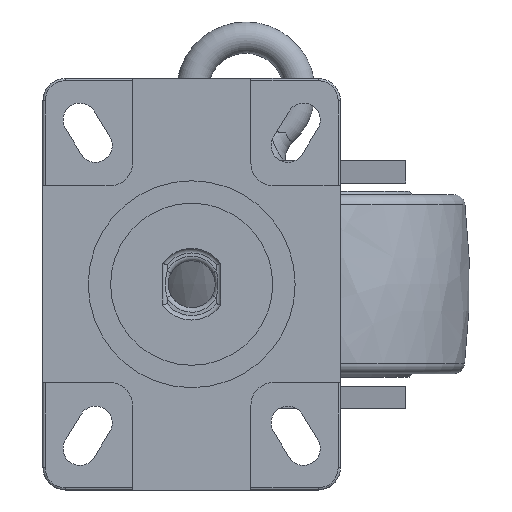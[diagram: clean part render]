
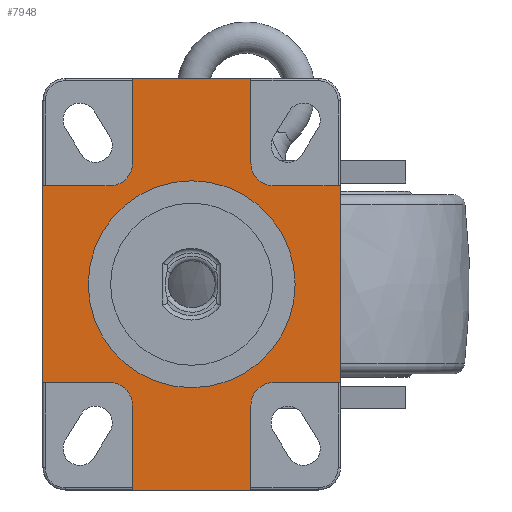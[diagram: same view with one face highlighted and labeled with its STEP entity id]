
A CAD part, front view. The second image highlights one B-rep face of the part: STEP entity #7948.
In plain terms, the highlighted planar face has unit normal (0, -1, 0) as drawn and (0, 1, 0) by its records, which use the part's own axes.
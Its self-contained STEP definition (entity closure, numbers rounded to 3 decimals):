
#6118=DIRECTION('',(0.,0.,1.));
#6119=VECTOR('',#6118,30.);
#6120=CARTESIAN_POINT('',(44.,-1.,-66.5));
#6121=LINE('',#6120,#6119);
#6122=CARTESIAN_POINT('',(54.,-1.,-36.5));
#6123=DIRECTION('',(0.,1.,0.));
#6124=DIRECTION('',(-1.,0.,0.));
#6125=AXIS2_PLACEMENT_3D('',#6122,#6123,#6124);
#6127=DIRECTION('',(1.,0.,0.));
#6128=VECTOR('',#6127,38.);
#6129=CARTESIAN_POINT('',(54.,-1.,-26.5));
#6130=LINE('',#6129,#6128);
#6131=DIRECTION('',(-1.,0.,0.));
#6132=VECTOR('',#6131,38.);
#6133=CARTESIAN_POINT('',(92.,-1.,26.5));
#6134=LINE('',#6133,#6132);
#6135=CARTESIAN_POINT('',(54.,-1.,36.5));
#6136=DIRECTION('',(0.,1.,0.));
#6137=DIRECTION('',(0.,0.,-1.));
#6138=AXIS2_PLACEMENT_3D('',#6135,#6136,#6137);
#6140=DIRECTION('',(0.,0.,1.));
#6141=VECTOR('',#6140,30.);
#6142=CARTESIAN_POINT('',(44.,-1.,36.5));
#6143=LINE('',#6142,#6141);
#6144=DIRECTION('',(0.,0.,-1.));
#6145=VECTOR('',#6144,30.);
#6146=CARTESIAN_POINT('',(-44.,-1.,66.5));
#6147=LINE('',#6146,#6145);
#6148=CARTESIAN_POINT('',(-54.,-1.,36.5));
#6149=DIRECTION('',(0.,1.,0.));
#6150=DIRECTION('',(1.,0.,0.));
#6151=AXIS2_PLACEMENT_3D('',#6148,#6149,#6150);
#6153=DIRECTION('',(-1.,0.,0.));
#6154=VECTOR('',#6153,38.);
#6155=CARTESIAN_POINT('',(-54.,-1.,26.5));
#6156=LINE('',#6155,#6154);
#6157=DIRECTION('',(1.,0.,0.));
#6158=VECTOR('',#6157,38.);
#6159=CARTESIAN_POINT('',(-92.,-1.,-26.5));
#6160=LINE('',#6159,#6158);
#6161=CARTESIAN_POINT('',(-54.,-1.,-36.5));
#6162=DIRECTION('',(0.,1.,0.));
#6163=DIRECTION('',(0.,0.,1.));
#6164=AXIS2_PLACEMENT_3D('',#6161,#6162,#6163);
#6166=DIRECTION('',(0.,0.,-1.));
#6167=VECTOR('',#6166,30.);
#6168=CARTESIAN_POINT('',(-44.,-1.,-36.5));
#6169=LINE('',#6168,#6167);
#6170=CARTESIAN_POINT('',(0.,-1.,0.));
#6171=DIRECTION('',(0.,1.,0.));
#6172=DIRECTION('',(1.,0.,0.));
#6173=AXIS2_PLACEMENT_3D('',#6170,#6171,#6172);
#6175=CARTESIAN_POINT('',(0.,-1.,0.));
#6176=DIRECTION('',(0.,1.,0.));
#6177=DIRECTION('',(-1.,0.,0.));
#6178=AXIS2_PLACEMENT_3D('',#6175,#6176,#6177);
#6180=DIRECTION('',(-1.,0.,0.));
#6181=VECTOR('',#6180,88.);
#6182=CARTESIAN_POINT('',(44.,-1.,-66.5));
#6183=LINE('',#6182,#6181);
#6498=DIRECTION('',(0.,0.,1.));
#6499=VECTOR('',#6498,53.);
#6500=CARTESIAN_POINT('',(-92.,-1.,-26.5));
#6501=LINE('',#6500,#6499);
#6582=DIRECTION('',(1.,0.,0.));
#6583=VECTOR('',#6582,88.);
#6584=CARTESIAN_POINT('',(-44.,-1.,66.5));
#6585=LINE('',#6584,#6583);
#6689=DIRECTION('',(0.,0.,-1.));
#6690=VECTOR('',#6689,53.);
#6691=CARTESIAN_POINT('',(92.,-1.,26.5));
#6692=LINE('',#6691,#6690);
#7161=CARTESIAN_POINT('',(44.,-1.,-66.5));
#7162=CARTESIAN_POINT('',(-44.,-1.,-66.5));
#7163=VERTEX_POINT('',#7161);
#7164=VERTEX_POINT('',#7162);
#7165=CARTESIAN_POINT('',(44.,-1.,-36.5));
#7166=VERTEX_POINT('',#7165);
#7167=CARTESIAN_POINT('',(54.,-1.,-26.5));
#7168=VERTEX_POINT('',#7167);
#7169=CARTESIAN_POINT('',(92.,-1.,-26.5));
#7170=VERTEX_POINT('',#7169);
#7171=CARTESIAN_POINT('',(92.,-1.,26.5));
#7172=VERTEX_POINT('',#7171);
#7173=CARTESIAN_POINT('',(54.,-1.,26.5));
#7174=VERTEX_POINT('',#7173);
#7175=CARTESIAN_POINT('',(44.,-1.,36.5));
#7176=VERTEX_POINT('',#7175);
#7177=CARTESIAN_POINT('',(44.,-1.,66.5));
#7178=VERTEX_POINT('',#7177);
#7179=CARTESIAN_POINT('',(-44.,-1.,66.5));
#7180=VERTEX_POINT('',#7179);
#7181=CARTESIAN_POINT('',(-44.,-1.,36.5));
#7182=VERTEX_POINT('',#7181);
#7183=CARTESIAN_POINT('',(-54.,-1.,26.5));
#7184=VERTEX_POINT('',#7183);
#7185=CARTESIAN_POINT('',(-92.,-1.,26.5));
#7186=VERTEX_POINT('',#7185);
#7187=CARTESIAN_POINT('',(-92.,-1.,-26.5));
#7188=VERTEX_POINT('',#7187);
#7189=CARTESIAN_POINT('',(-54.,-1.,-26.5));
#7190=VERTEX_POINT('',#7189);
#7191=CARTESIAN_POINT('',(-44.,-1.,-36.5));
#7192=VERTEX_POINT('',#7191);
#7193=CARTESIAN_POINT('',(46.25,-1.,0.));
#7194=CARTESIAN_POINT('',(-46.25,-1.,0.));
#7195=VERTEX_POINT('',#7193);
#7196=VERTEX_POINT('',#7194);
#7904=CARTESIAN_POINT('',(0.,-1.,0.));
#7905=DIRECTION('',(0.,1.,0.));
#7906=DIRECTION('',(1.,0.,0.));
#7907=AXIS2_PLACEMENT_3D('',#7904,#7905,#7906);
#7908=PLANE('',#7907);
#7910=ORIENTED_EDGE('',*,*,#7909,.F.);
#7912=ORIENTED_EDGE('',*,*,#7911,.T.);
#7914=ORIENTED_EDGE('',*,*,#7913,.T.);
#7916=ORIENTED_EDGE('',*,*,#7915,.T.);
#7918=ORIENTED_EDGE('',*,*,#7917,.F.);
#7920=ORIENTED_EDGE('',*,*,#7919,.T.);
#7922=ORIENTED_EDGE('',*,*,#7921,.T.);
#7924=ORIENTED_EDGE('',*,*,#7923,.T.);
#7926=ORIENTED_EDGE('',*,*,#7925,.F.);
#7928=ORIENTED_EDGE('',*,*,#7927,.T.);
#7930=ORIENTED_EDGE('',*,*,#7929,.T.);
#7932=ORIENTED_EDGE('',*,*,#7931,.T.);
#7934=ORIENTED_EDGE('',*,*,#7933,.F.);
#7936=ORIENTED_EDGE('',*,*,#7935,.T.);
#7938=ORIENTED_EDGE('',*,*,#7937,.T.);
#7940=ORIENTED_EDGE('',*,*,#7939,.T.);
#7941=EDGE_LOOP('',(#7910,#7912,#7914,#7916,#7918,#7920,#7922,#7924,#7926,#7928,
#7930,#7932,#7934,#7936,#7938,#7940));
#7942=FACE_OUTER_BOUND('',#7941,.F.);
#7943=ORIENTED_EDGE('',*,*,#7894,.T.);
#7945=ORIENTED_EDGE('',*,*,#7944,.T.);
#7946=EDGE_LOOP('',(#7943,#7945));
#7947=FACE_BOUND('',#7946,.F.);
#6126=CIRCLE('',#6125,10.);
#6139=CIRCLE('',#6138,10.);
#6152=CIRCLE('',#6151,10.);
#6165=CIRCLE('',#6164,10.);
#6174=CIRCLE('',#6173,46.25);
#6179=CIRCLE('',#6178,46.25);
#7894=EDGE_CURVE('',#7195,#7196,#6174,.T.);
#7909=EDGE_CURVE('',#7163,#7164,#6183,.T.);
#7911=EDGE_CURVE('',#7163,#7166,#6121,.T.);
#7913=EDGE_CURVE('',#7166,#7168,#6126,.T.);
#7915=EDGE_CURVE('',#7168,#7170,#6130,.T.);
#7917=EDGE_CURVE('',#7172,#7170,#6692,.T.);
#7919=EDGE_CURVE('',#7172,#7174,#6134,.T.);
#7921=EDGE_CURVE('',#7174,#7176,#6139,.T.);
#7923=EDGE_CURVE('',#7176,#7178,#6143,.T.);
#7925=EDGE_CURVE('',#7180,#7178,#6585,.T.);
#7927=EDGE_CURVE('',#7180,#7182,#6147,.T.);
#7929=EDGE_CURVE('',#7182,#7184,#6152,.T.);
#7931=EDGE_CURVE('',#7184,#7186,#6156,.T.);
#7933=EDGE_CURVE('',#7188,#7186,#6501,.T.);
#7935=EDGE_CURVE('',#7188,#7190,#6160,.T.);
#7937=EDGE_CURVE('',#7190,#7192,#6165,.T.);
#7939=EDGE_CURVE('',#7192,#7164,#6169,.T.);
#7944=EDGE_CURVE('',#7196,#7195,#6179,.T.);
#7948=ADVANCED_FACE('',(#7942,#7947),#7908,.T.);
